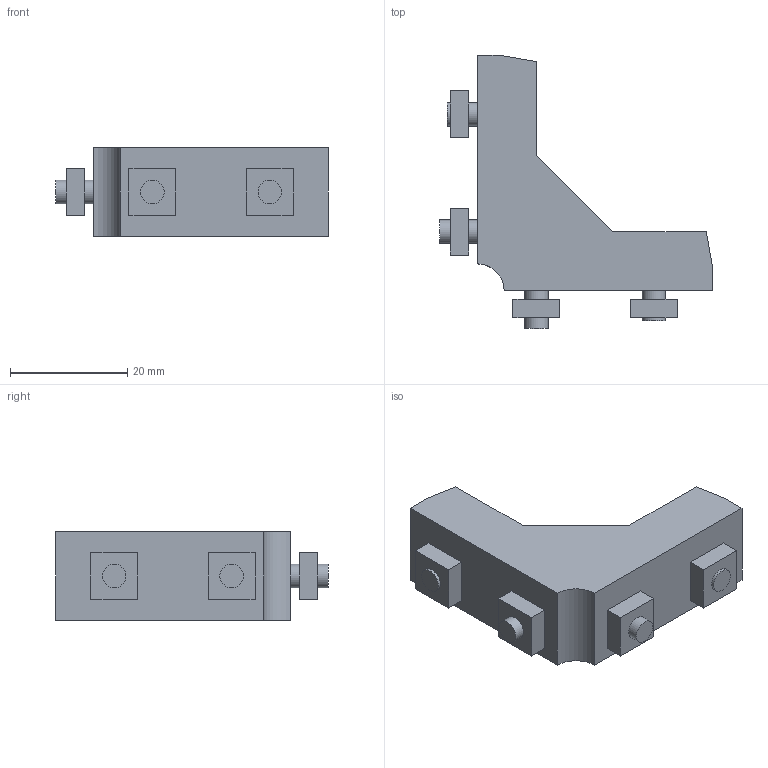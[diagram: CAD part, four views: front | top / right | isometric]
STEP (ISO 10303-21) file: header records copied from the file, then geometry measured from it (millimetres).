
FILE_DESCRIPTION((''),'2;1');
FILE_NAME('C:\Documents and Settings\古川典政\My Documents\Inventor\HP用\MasterData\BRACKET\M4\ABLRD-20-4.stp','2008-07-30T14:19:46',('ÐT'),(''),'Autodesk Inventor 2008','Autodesk Inventor 2008','');
FILE_SCHEMA(('AUTOMOTIVE_DESIGN { 1 0 10303 214 1 1 1 1 }'));
Length unit declared in the file: millimetre
Products named in the file (10): ABLRD-20-4; ABLRD-20-41; ABLRD-20-42; ABLRD-20-43; ABLRD-20-44; ABLRD-20-45; ABLRD-20-46; ABLRD-20-47; ABLRD-20-48; ABLRD-20-49
Assembly tree (9 placements, depth 2):
  ABLRD-20-4
    ABLRD-20-41
    ABLRD-20-42
    ABLRD-20-43
    ABLRD-20-44
    ABLRD-20-45
    ABLRD-20-46
    ABLRD-20-47
    ABLRD-20-48
    ABLRD-20-49
Bounding box: 46.5 x 46.5 x 15 mm (x, y, z)
Volume: 8375.6 mm3; surface area: 7319 mm2
Topology: 9 solids, 9 shells, 93 faces, 203 edges, 138 vertices
Faces by surface type: plane 71, cylinder 14, bspline 8
Full cylindrical faces by diameter (mm): 4 x4, 4.3 x2, 4.5 x2, 7 x2, 8 x1, 10 x2
Entity records: 2786 total; most frequent: CARTESIAN_POINT 539, DIRECTION 425, ORIENTED_EDGE 350, EDGE_CURVE 175, AXIS2_PLACEMENT_3D 146, EDGE_LOOP 139, VECTOR 133, LINE 133
